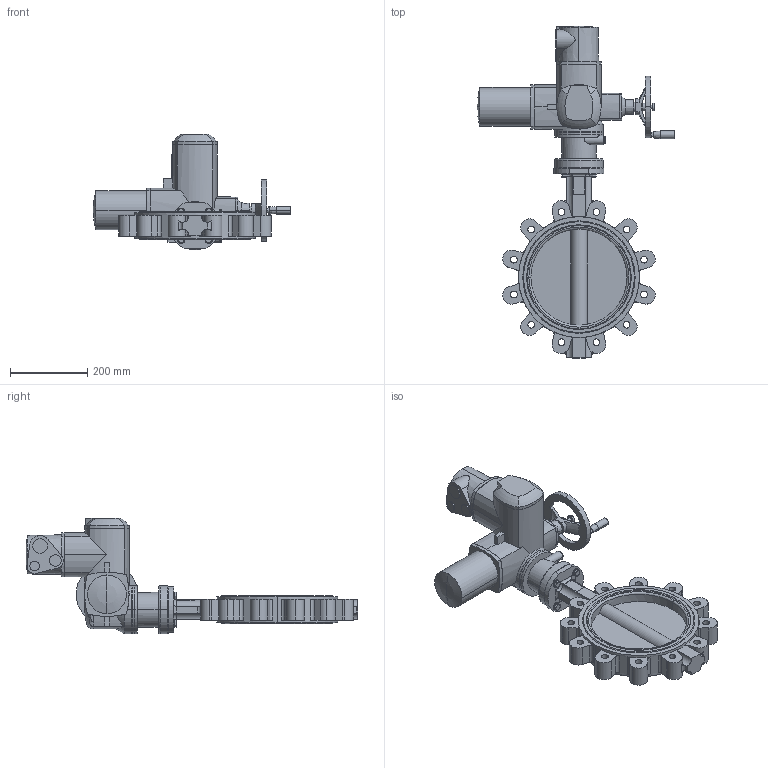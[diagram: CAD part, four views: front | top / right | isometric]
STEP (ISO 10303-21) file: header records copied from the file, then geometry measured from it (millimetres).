
FILE_DESCRIPTION (( 'STEP AP214' ), '1' );
FILE_NAME ('67552.step', '2020-10-23T13:46:52', ( '' ), ( '' ), 'SwSTEP 2.0', 'SolidWorks 2019', '' );
FILE_SCHEMA (( 'AUTOMOTIVE_DESIGN' ));
Length unit declared in the file: millimetre
Products named in the file (7): Gewindestift mit Kegelkuppe und In-6kt DIN 913 A4_Gewindestift mit In-6kt M6x12; U-Scheibe DIN 125 A_M10; 67552; TL20-0250_M01; SQ(R) 07.2_SQ07.2 Drehstrommotor F10; 54377_SQ07.2 F10-VK22; 6kt-Schr DIN 933_M10x30
Assembly tree (12 placements, depth 2):
  67552
    TL20-0250_M01
    U-Scheibe DIN 125 A_M10  x4
    6kt-Schr DIN 933_M10x30  x4
    SQ(R) 07.2_SQ07.2 Drehstrommotor F10
    54377_SQ07.2 F10-VK22
    Gewindestift mit Kegelkuppe und In-6kt DIN 913 A4_Gewindestift mit In-6kt M6x12
Bounding box: 512.7 x 862 x 300.3 mm (x, y, z)
Volume: 12689180.4 mm3; surface area: 876034.3 mm2
Topology: 12 solids, 16 shells, 863 faces, 2146 edges, 1368 vertices
Faces by surface type: plane 409, cylinder 309, cone 118, torus 14, bspline 9, sphere 4
Entity records: 32404 total; most frequent: CARTESIAN_POINT 8761, DIRECTION 4020, ORIENTED_EDGE 3870, EDGE_CURVE 1935, AXIS2_PLACEMENT_3D 1512, VERTEX_POINT 1246, VECTOR 996, LINE 996
